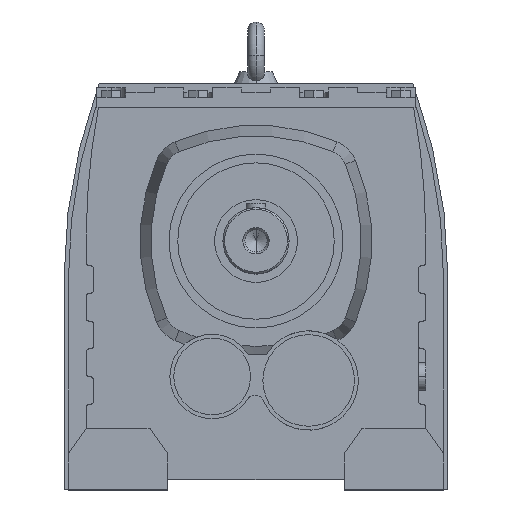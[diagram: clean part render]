
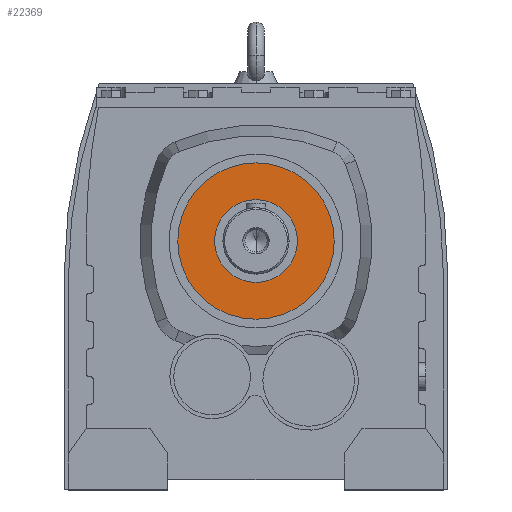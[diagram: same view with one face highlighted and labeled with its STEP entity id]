
A CAD part, top view. The second image highlights one B-rep face of the part: STEP entity #22369.
In plain terms, the highlighted planar face has unit normal (0, 0, 1).
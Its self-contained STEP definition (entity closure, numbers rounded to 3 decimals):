
#22072 = CYLINDRICAL_SURFACE('',#22073,70.875);
#22073 = AXIS2_PLACEMENT_3D('',#22074,#22075,#22076);
#22074 = CARTESIAN_POINT('',(0.,10.2,440.));
#22075 = DIRECTION('',(0.,0.,1.));
#22076 = DIRECTION('',(0.,-1.,0.));
#22102 = CYLINDRICAL_SURFACE('',#22103,70.875);
#22103 = AXIS2_PLACEMENT_3D('',#22104,#22105,#22106);
#22104 = CARTESIAN_POINT('',(0.,10.2,440.));
#22105 = DIRECTION('',(0.,0.,1.));
#22106 = DIRECTION('',(0.,-1.,0.));
#22275 = VERTEX_POINT('',#22276);
#22276 = CARTESIAN_POINT('',(0.,81.075,308.));
#22297 = VERTEX_POINT('',#22298);
#22298 = CARTESIAN_POINT('',(0.,-60.675,308.));
#22317 = EDGE_CURVE('',#22275,#22297,#22318,.T.);
#22318 = SURFACE_CURVE('',#22319,(#22324,#22330),.PCURVE_S1.);
#22319 = CIRCLE('',#22320,70.875);
#22320 = AXIS2_PLACEMENT_3D('',#22321,#22322,#22323);
#22321 = CARTESIAN_POINT('',(0.,10.2,308.));
#22322 = DIRECTION('',(0.,0.,-1.));
#22323 = DIRECTION('',(-1.,0.,0.));
#22324 = PCURVE('',#22072,#22325);
#22325 = DEFINITIONAL_REPRESENTATION('',(#22326),#22329);
#22326 = B_SPLINE_CURVE_WITH_KNOTS('',1,(#22327,#22328),.UNSPECIFIED.,
  .F.,.F.,(2,2),(1.571,4.712),
  .PIECEWISE_BEZIER_KNOTS.);
#22327 = CARTESIAN_POINT('',(3.142,-132.));
#22328 = CARTESIAN_POINT('',(0.,-132.));
#22329 = ( GEOMETRIC_REPRESENTATION_CONTEXT(2) 
PARAMETRIC_REPRESENTATION_CONTEXT() REPRESENTATION_CONTEXT('2D SPACE',''
  ) );
#22330 = PCURVE('',#22331,#22336);
#22331 = PLANE('',#22332);
#22332 = AXIS2_PLACEMENT_3D('',#22333,#22334,#22335);
#22333 = CARTESIAN_POINT('',(-30.573,-1.227,308.));
#22334 = DIRECTION('',(0.,0.,-1.));
#22335 = DIRECTION('',(-1.,0.,0.));
#22336 = DEFINITIONAL_REPRESENTATION('',(#22337),#22341);
#22337 = CIRCLE('',#22338,70.875);
#22338 = AXIS2_PLACEMENT_2D('',#22339,#22340);
#22339 = CARTESIAN_POINT('',(-30.573,11.427));
#22340 = DIRECTION('',(1.,0.));
#22341 = ( GEOMETRIC_REPRESENTATION_CONTEXT(2) 
PARAMETRIC_REPRESENTATION_CONTEXT() REPRESENTATION_CONTEXT('2D SPACE',''
  ) );
#22346 = EDGE_CURVE('',#22297,#22275,#22347,.T.);
#22347 = SURFACE_CURVE('',#22348,(#22353,#22359),.PCURVE_S1.);
#22348 = CIRCLE('',#22349,70.875);
#22349 = AXIS2_PLACEMENT_3D('',#22350,#22351,#22352);
#22350 = CARTESIAN_POINT('',(0.,10.2,308.));
#22351 = DIRECTION('',(0.,0.,-1.));
#22352 = DIRECTION('',(-1.,0.,0.));
#22353 = PCURVE('',#22102,#22354);
#22354 = DEFINITIONAL_REPRESENTATION('',(#22355),#22358);
#22355 = B_SPLINE_CURVE_WITH_KNOTS('',1,(#22356,#22357),.UNSPECIFIED.,
  .F.,.F.,(2,2),(4.712,7.854),
  .PIECEWISE_BEZIER_KNOTS.);
#22356 = CARTESIAN_POINT('',(6.283,-132.));
#22357 = CARTESIAN_POINT('',(3.142,-132.));
#22358 = ( GEOMETRIC_REPRESENTATION_CONTEXT(2) 
PARAMETRIC_REPRESENTATION_CONTEXT() REPRESENTATION_CONTEXT('2D SPACE',''
  ) );
#22359 = PCURVE('',#22331,#22360);
#22360 = DEFINITIONAL_REPRESENTATION('',(#22361),#22365);
#22361 = CIRCLE('',#22362,70.875);
#22362 = AXIS2_PLACEMENT_2D('',#22363,#22364);
#22363 = CARTESIAN_POINT('',(-30.573,11.427));
#22364 = DIRECTION('',(1.,0.));
#22365 = ( GEOMETRIC_REPRESENTATION_CONTEXT(2) 
PARAMETRIC_REPRESENTATION_CONTEXT() REPRESENTATION_CONTEXT('2D SPACE',''
  ) );
#22369 = ADVANCED_FACE('',(#22370,#22374),#22331,.F.);
#22370 = FACE_BOUND('',#22371,.T.);
#22371 = EDGE_LOOP('',(#22372,#22373));
#22372 = ORIENTED_EDGE('',*,*,#22346,.F.);
#22373 = ORIENTED_EDGE('',*,*,#22317,.F.);
#22374 = FACE_BOUND('',#22375,.T.);
#22375 = EDGE_LOOP('',(#22376,#22410));
#22376 = ORIENTED_EDGE('',*,*,#22377,.F.);
#22377 = EDGE_CURVE('',#22378,#22380,#22382,.T.);
#22378 = VERTEX_POINT('',#22379);
#22379 = CARTESIAN_POINT('',(0.,-27.3,308.));
#22380 = VERTEX_POINT('',#22381);
#22381 = CARTESIAN_POINT('',(0.,47.7,308.));
#22382 = SURFACE_CURVE('',#22383,(#22388,#22399),.PCURVE_S1.);
#22383 = CIRCLE('',#22384,37.5);
#22384 = AXIS2_PLACEMENT_3D('',#22385,#22386,#22387);
#22385 = CARTESIAN_POINT('',(0.,10.2,308.));
#22386 = DIRECTION('',(0.,0.,1.));
#22387 = DIRECTION('',(-1.,0.,0.));
#22388 = PCURVE('',#22331,#22389);
#22389 = DEFINITIONAL_REPRESENTATION('',(#22390),#22398);
#22390 = ( BOUNDED_CURVE() B_SPLINE_CURVE(2,(#22391,#22392,#22393,#22394
    ,#22395,#22396,#22397),.UNSPECIFIED.,.T.,.F.) 
B_SPLINE_CURVE_WITH_KNOTS((1,2,2,2,2,1),(-2.094,0.,
    2.094,4.189,6.283,8.378),
.UNSPECIFIED.) CURVE() GEOMETRIC_REPRESENTATION_ITEM() 
RATIONAL_B_SPLINE_CURVE((1.,0.5,1.,0.5,1.,0.5,1.)) REPRESENTATION_ITEM(
  '') );
#22391 = CARTESIAN_POINT('',(6.927,11.427));
#22392 = CARTESIAN_POINT('',(6.927,-53.525));
#22393 = CARTESIAN_POINT('',(-49.323,-21.049));
#22394 = CARTESIAN_POINT('',(-105.573,11.427));
#22395 = CARTESIAN_POINT('',(-49.323,43.903));
#22396 = CARTESIAN_POINT('',(6.927,76.379));
#22397 = CARTESIAN_POINT('',(6.927,11.427));
#22398 = ( GEOMETRIC_REPRESENTATION_CONTEXT(2) 
PARAMETRIC_REPRESENTATION_CONTEXT() REPRESENTATION_CONTEXT('2D SPACE',''
  ) );
#22399 = PCURVE('',#22400,#22405);
#22400 = CYLINDRICAL_SURFACE('',#22401,37.5);
#22401 = AXIS2_PLACEMENT_3D('',#22402,#22403,#22404);
#22402 = CARTESIAN_POINT('',(0.,10.2,440.));
#22403 = DIRECTION('',(0.,0.,1.));
#22404 = DIRECTION('',(0.,-1.,0.));
#22405 = DEFINITIONAL_REPRESENTATION('',(#22406),#22409);
#22406 = B_SPLINE_CURVE_WITH_KNOTS('',1,(#22407,#22408),.UNSPECIFIED.,
  .F.,.F.,(2,2),(1.571,4.712),
  .PIECEWISE_BEZIER_KNOTS.);
#22407 = CARTESIAN_POINT('',(0.,-132.));
#22408 = CARTESIAN_POINT('',(3.142,-132.));
#22409 = ( GEOMETRIC_REPRESENTATION_CONTEXT(2) 
PARAMETRIC_REPRESENTATION_CONTEXT() REPRESENTATION_CONTEXT('2D SPACE',''
  ) );
#22410 = ORIENTED_EDGE('',*,*,#22411,.F.);
#22411 = EDGE_CURVE('',#22380,#22378,#22412,.T.);
#22412 = SURFACE_CURVE('',#22413,(#22418,#22429),.PCURVE_S1.);
#22413 = CIRCLE('',#22414,37.5);
#22414 = AXIS2_PLACEMENT_3D('',#22415,#22416,#22417);
#22415 = CARTESIAN_POINT('',(0.,10.2,308.));
#22416 = DIRECTION('',(0.,0.,1.));
#22417 = DIRECTION('',(-1.,0.,0.));
#22418 = PCURVE('',#22331,#22419);
#22419 = DEFINITIONAL_REPRESENTATION('',(#22420),#22428);
#22420 = ( BOUNDED_CURVE() B_SPLINE_CURVE(2,(#22421,#22422,#22423,#22424
    ,#22425,#22426,#22427),.UNSPECIFIED.,.T.,.F.) 
B_SPLINE_CURVE_WITH_KNOTS((1,2,2,2,2,1),(-2.094,0.,
    2.094,4.189,6.283,8.378),
.UNSPECIFIED.) CURVE() GEOMETRIC_REPRESENTATION_ITEM() 
RATIONAL_B_SPLINE_CURVE((1.,0.5,1.,0.5,1.,0.5,1.)) REPRESENTATION_ITEM(
  '') );
#22421 = CARTESIAN_POINT('',(6.927,11.427));
#22422 = CARTESIAN_POINT('',(6.927,-53.525));
#22423 = CARTESIAN_POINT('',(-49.323,-21.049));
#22424 = CARTESIAN_POINT('',(-105.573,11.427));
#22425 = CARTESIAN_POINT('',(-49.323,43.903));
#22426 = CARTESIAN_POINT('',(6.927,76.379));
#22427 = CARTESIAN_POINT('',(6.927,11.427));
#22428 = ( GEOMETRIC_REPRESENTATION_CONTEXT(2) 
PARAMETRIC_REPRESENTATION_CONTEXT() REPRESENTATION_CONTEXT('2D SPACE',''
  ) );
#22429 = PCURVE('',#22430,#22435);
#22430 = CYLINDRICAL_SURFACE('',#22431,37.5);
#22431 = AXIS2_PLACEMENT_3D('',#22432,#22433,#22434);
#22432 = CARTESIAN_POINT('',(0.,10.2,440.));
#22433 = DIRECTION('',(0.,0.,1.));
#22434 = DIRECTION('',(0.,-1.,0.));
#22435 = DEFINITIONAL_REPRESENTATION('',(#22436),#22439);
#22436 = B_SPLINE_CURVE_WITH_KNOTS('',1,(#22437,#22438),.UNSPECIFIED.,
  .F.,.F.,(2,2),(4.712,7.854),
  .PIECEWISE_BEZIER_KNOTS.);
#22437 = CARTESIAN_POINT('',(3.142,-132.));
#22438 = CARTESIAN_POINT('',(6.283,-132.));
#22439 = ( GEOMETRIC_REPRESENTATION_CONTEXT(2) 
PARAMETRIC_REPRESENTATION_CONTEXT() REPRESENTATION_CONTEXT('2D SPACE',''
  ) );
